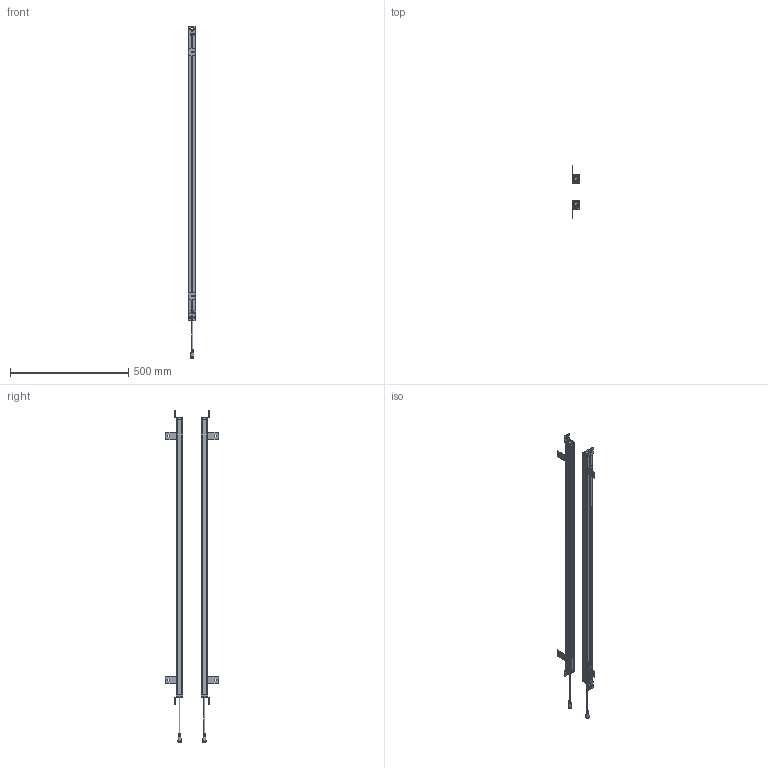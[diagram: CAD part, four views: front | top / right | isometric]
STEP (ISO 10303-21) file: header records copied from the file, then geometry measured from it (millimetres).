
FILE_DESCRIPTION(/* description */ (''),/* implementation_level */ '2;1');
FILE_NAME(/* name */ '5820（29x30）.stp',/* time_stamp */ '2023-04-28T14:33:12+08:00',/* author */ (''),/* organization */ (''),/* preprocessor_version */ 'ST-DEVELOPER v16.7',/* originating_system */ 'SIEMENS PLM Software NX 12.0',/* authorisation */ '');
FILE_SCHEMA (('AUTOMOTIVE_DESIGN { 1 0 10303 214 3 1 1 1 }'));
Products named in the file (1): 5820（29x30）_stp
Bounding box: 32.03 x 223.99 x 1401 mm (x, y, z)
Volume: 737270.3 mm3; surface area: 759875.1 mm2
Topology: 34 solids, 34 shells, 1610 faces, 4267 edges, 2771 vertices
Faces by surface type: plane 750, cylinder 648, bspline 88, sphere 36, cone 36, torus 32, extrusion 20
Full cylindrical faces by diameter (mm): 1.533 x6, 4.4 x4, 9 x2, 12.5 x2
Entity records: 56427 total; most frequent: CARTESIAN_POINT 16064, DIRECTION 8330, ORIENTED_EDGE 8324, EDGE_CURVE 4162, AXIS2_PLACEMENT_3D 2918, VERTEX_POINT 2696, VECTOR 2494, LINE 2474
